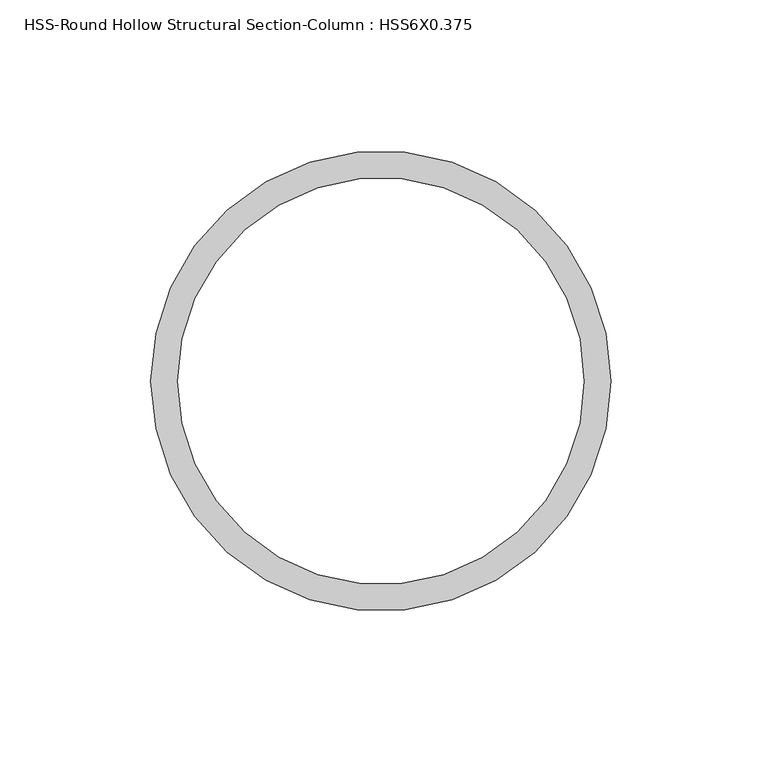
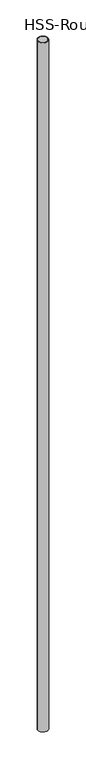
"""IFC4 building model written with IfcOpenShell, lengths in millimetres: column geometry, HSS-Round Hollow Structural Section-Column : HSS6X0.375."""

from ifc_helpers import new_model, si_unit, point, frame, origin, origin_2d, place, context, project, spatial, circle_curve, trimmed, segment, composite_curve, outline, extrude, source, transform, mapped, element, save


def hss_round_hollow_structural_section_column_hss6x0_375_fb263522(model_context):
    return source(origin(), model_context, "Body", "SweptSolid", [
        extrude(outline(composite_curve([segment(trimmed(circle_curve(origin_2d(), 76.2), [point((-76.2, 0.0))], [point((76.2, 0.0))], False, "CARTESIAN"), True, "CONTINUOUS"), segment(trimmed(circle_curve(origin_2d(), 76.2), [point((76.2, 0.0))], [point((-76.2, 0.0))], False, "CARTESIAN"), True, "CONTINUOUS")], self_intersect=False), holes=[composite_curve([segment(trimmed(circle_curve(origin_2d(), 67.3354), [point((-67.3354, 0.0))], [point((67.3354, 0.0))], True, "CARTESIAN"), True, "CONTINUOUS"), segment(trimmed(circle_curve(origin_2d(), 67.3354), [point((67.3354, 0.0))], [point((-67.3354, 0.0))], True, "CARTESIAN"), True, "CONTINUOUS")], self_intersect=False)]), frame((0.0, 0.0, 45110.4), z_axis=(0.0, 0.0, 1.0), x_axis=(1.0, 0.0, 0.0)), (0.0, 0.0, 1.0), 10967.6),
    ])


if __name__ == "__main__":
    model = new_model("IFC4")
    model_context = context("Model", 3, world=origin())
    ifc_project = project(units=[si_unit("LENGTHUNIT", "METRE", prefix="MILLI")], contexts=[model_context])
    site = spatial("IfcSite", under=ifc_project)
    building = spatial("IfcBuilding", under=site)
    placement = place(None, origin())
    hss_round_hollow_structural_section_column_hss6x0_375_shape = hss_round_hollow_structural_section_column_hss6x0_375_fb263522(model_context)
    element("IfcColumn", 1, ObjectType="HSS-Round Hollow Structural Section-Column : HSS6X0.375", at=placement, inside=building, context=model_context, shape_type="MappedRepresentation", body=[
        mapped(hss_round_hollow_structural_section_column_hss6x0_375_shape, transform((0.0, 0.0, 0.0), x_axis=(1.0, 0.0, 0.0), y_axis=(0.0, 1.0, 0.0), z_axis=(0.0, 0.0, 1.0))),
    ])
    save(model, "model.ifc")
